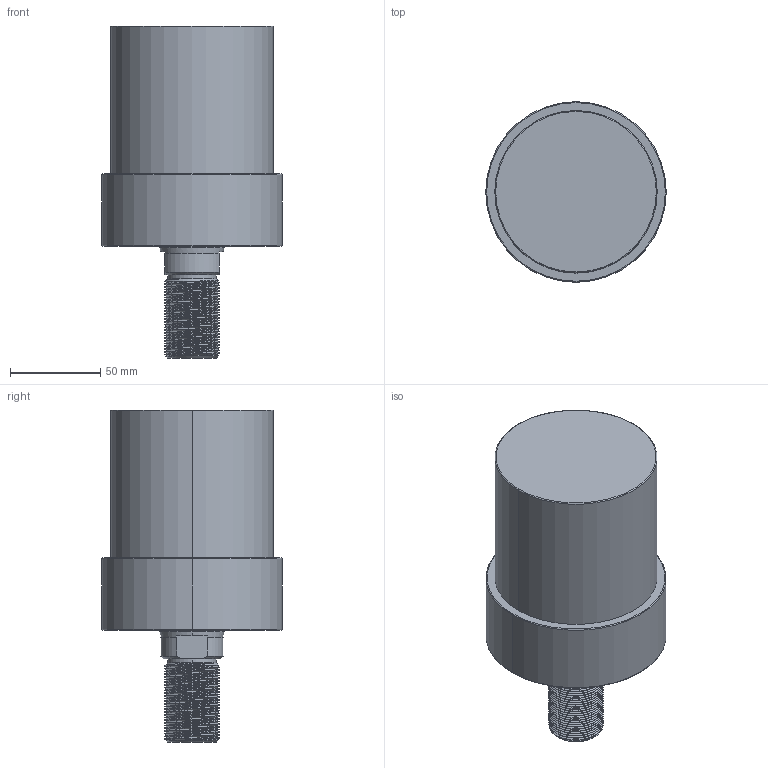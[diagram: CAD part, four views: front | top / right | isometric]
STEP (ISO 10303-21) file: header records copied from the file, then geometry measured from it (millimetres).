
FILE_DESCRIPTION (( 'STEP AP203' ), '1' );
FILE_NAME ('CLLU-090GT-060.STEP', '2020-01-13T02:57:07', ( '' ), ( '' ), 'SwSTEP 2.0', 'SolidWorks 2015', '' );
FILE_SCHEMA (( 'CONFIG_CONTROL_DESIGN' ));
Length unit declared in the file: millimetre
Products named in the file (1): CLLU-090GT-060
Bounding box: 100 x 100 x 184 mm (x, y, z)
Volume: 874654.3 mm3; surface area: 62786 mm2
Topology: 1 solids, 1 shells, 122 faces, 318 edges, 199 vertices
Faces by surface type: cylinder 78, cone 25, plane 11, torus 6, bspline 2
Entity records: 7078 total; most frequent: CARTESIAN_POINT 4366, ORIENTED_EDGE 620, DIRECTION 498, EDGE_CURVE 310, VERTEX_POINT 199, AXIS2_PLACEMENT_3D 196, EDGE_LOOP 131, FACE_OUTER_BOUND 122
